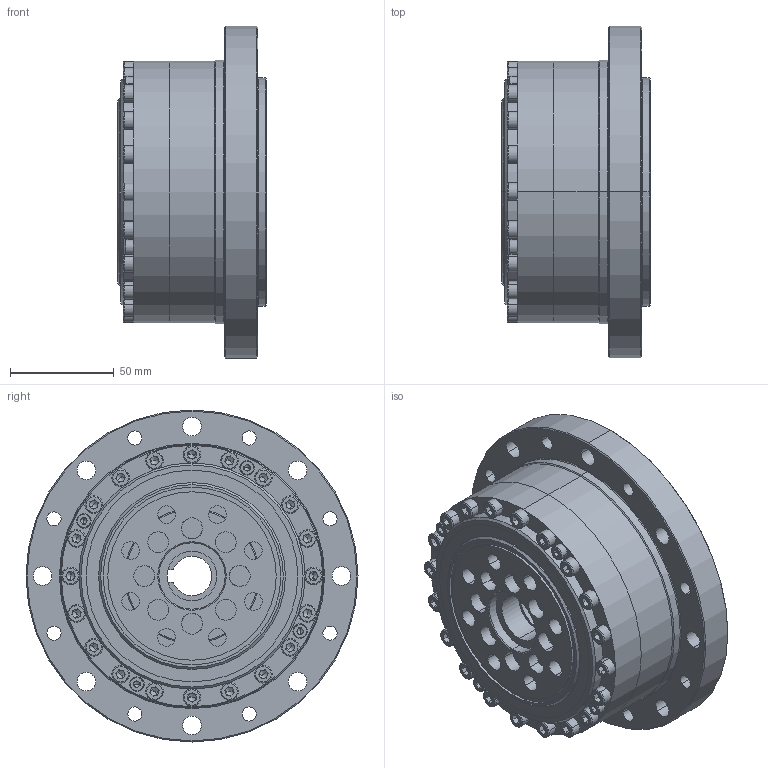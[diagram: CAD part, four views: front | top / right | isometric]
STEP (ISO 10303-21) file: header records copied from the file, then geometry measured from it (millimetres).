
FILE_DESCRIPTION (( 'STEP AP203' ), '1' );
FILE_NAME ('LCS-40-XXX-C-I-S0.STEP', '2016-10-18T07:15:49', ( 'Windows 蚚誧' ), ( 'Users' ), 'SwSTEP 2.0', 'SolidWorks 2013', '' );
FILE_SCHEMA (( 'CONFIG_CONTROL_DESIGN' ));
Length unit declared in the file: millimetre
Products named in the file (16): socket head cap screw_din_DIN 912 M12 x 25 --- 25N; RZC-40悵厥殤; socket head cap screw_din_内六角圆柱头螺钉M4 x 16; 柔性轴承RZC-40; socket head cap screw_din_内六角圆柱头螺钉M5 x 25; 疏楷汜ん-40-I; countersunk flat head cross recess screw_din_ISO 7046-1 - M3 x 8 - Z --- 8C; LCS-40-XXX-P01-I; LCS-40-XXX-C-I-S0; LCS-40-XXX-P02-I; LCS-40-XXX-P05-I; LCS-40-XXX-P03-I-S0; LCS-40-XXX-P04-I; DB-14-I; 15Z-901026; RZC-40内外圈+钢球
Assembly tree (47 placements, depth 4):
  LCS-40-XXX-C-I-S0
    疏楷汜ん-40-I
      LCS-40-XXX-P03-I-S0
      DB-14-I
      柔性轴承RZC-40
        RZC-40内外圈+钢球
        RZC-40悵厥殤
    LCS-40-XXX-P01-I
    LCS-40-XXX-P02-I
    LCS-40-XXX-P05-I
    LCS-40-XXX-P04-I
    15Z-901026
    socket head cap screw_din_DIN 912 M12 x 25 --- 25N  x8
    socket head cap screw_din_内六角圆柱头螺钉M4 x 16  x4
    socket head cap screw_din_内六角圆柱头螺钉M5 x 25  x20
    countersunk flat head cross recess screw_din_ISO 7046-1 - M3 x 8 - Z --- 8C  x4
Bounding box: 71.5 x 160 x 160 mm (x, y, z)
Volume: 650559.9 mm3; surface area: 288647.1 mm2
Topology: 70 solids, 70 shells, 1707 faces, 3984 edges, 2383 vertices
Faces by surface type: plane 675, cylinder 546, cone 264, torus 176, sphere 46
Entity records: 26349 total; most frequent: DIRECTION 4712, CARTESIAN_POINT 3944, ORIENTED_EDGE 3714, AXIS2_PLACEMENT_3D 2015, EDGE_CURVE 1857, VERTEX_POINT 1195, CIRCLE 1162, EDGE_LOOP 1062
